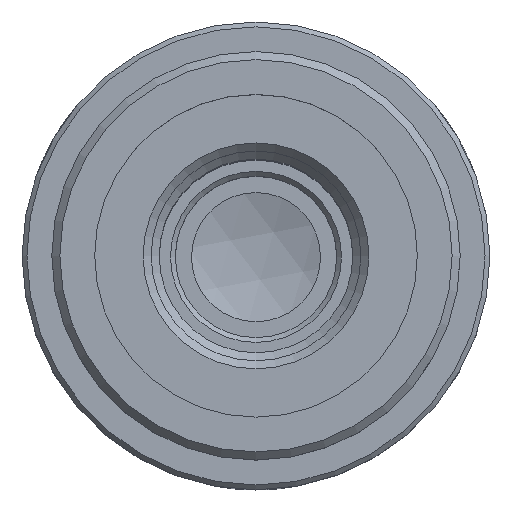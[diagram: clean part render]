
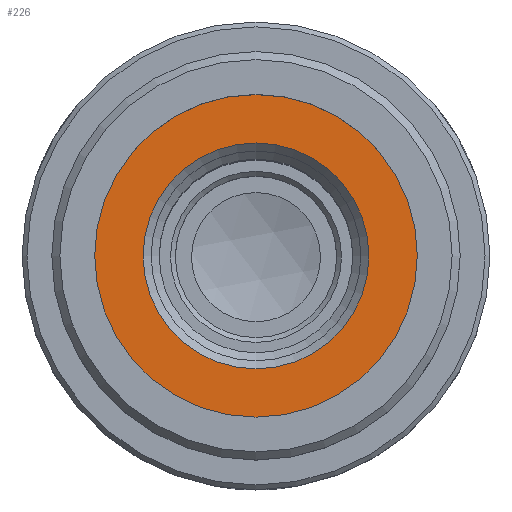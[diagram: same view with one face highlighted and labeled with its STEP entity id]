
A CAD part, top view. The second image highlights one B-rep face of the part: STEP entity #226.
In plain terms, the highlighted planar face has unit normal (0, 0, 1).
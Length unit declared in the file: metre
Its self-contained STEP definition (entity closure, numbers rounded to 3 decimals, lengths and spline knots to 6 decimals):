
#226=ADVANCED_FACE('NONE',(#597,#598),#599,.F.);
#597=FACE_BOUND('',#1268,.T.);
#598=FACE_OUTER_BOUND('',#1269,.T.);
#599=PLANE('',#1270);
#1268=EDGE_LOOP('',(#1908));
#1269=EDGE_LOOP('',(#1909));
#1270=AXIS2_PLACEMENT_3D('',#1910,#1911,#1912);
#1908=ORIENTED_EDGE('',*,*,#3024,.T.);
#1909=ORIENTED_EDGE('',*,*,#3025,.F.);
#1910=CARTESIAN_POINT('',(0.012802,0.010149,0.054159));
#1911=DIRECTION('',(0.,0.0,-1.0));
#1912=DIRECTION('',(-1.0,0.0,0.));
#3024=EDGE_CURVE('NONE',#3462,#3462,#3463,.T.);
#3025=EDGE_CURVE('NONE',#3464,#3464,#3465,.T.);
#3462=VERTEX_POINT('',#4324);
#3463=CIRCLE('',#4325,0.007);
#3464=VERTEX_POINT('',#4326);
#3465=CIRCLE('',#4327,0.01);
#4324=CARTESIAN_POINT('',(0.005802,0.000149,0.054159));
#4325=AXIS2_PLACEMENT_3D('',#5226,#5227,#5228);
#4326=CARTESIAN_POINT('',(0.002802,0.000149,0.054159));
#4327=AXIS2_PLACEMENT_3D('',#5229,#5230,#5231);
#5226=CARTESIAN_POINT('',(0.012802,0.000149,0.054159));
#5227=DIRECTION('',(0.,0.0,-1.0));
#5228=DIRECTION('',(-1.0,0.0,0.));
#5229=CARTESIAN_POINT('',(0.012802,0.000149,0.054159));
#5230=DIRECTION('',(0.,0.0,-1.0));
#5231=DIRECTION('',(-1.0,0.0,0.));
